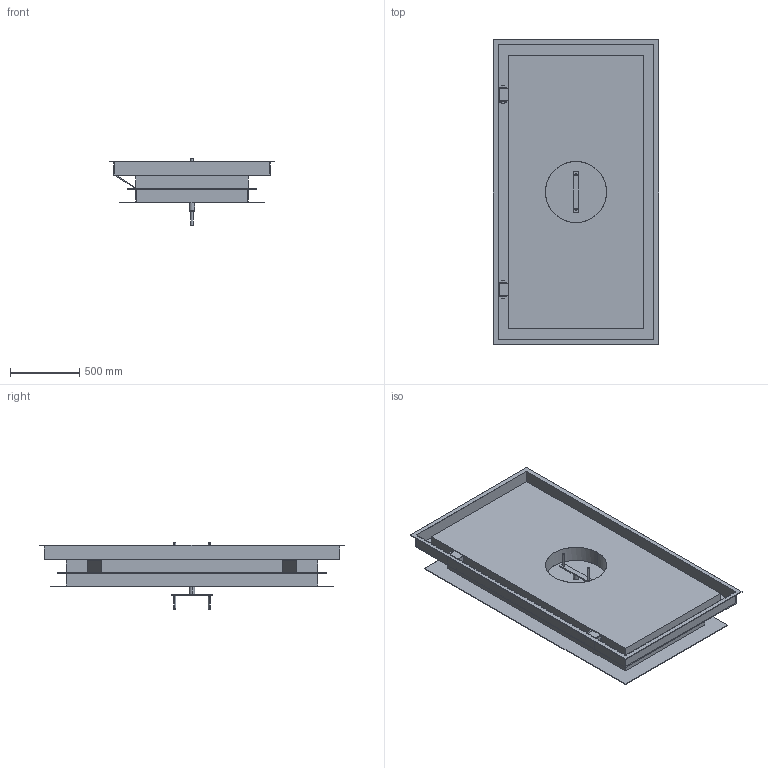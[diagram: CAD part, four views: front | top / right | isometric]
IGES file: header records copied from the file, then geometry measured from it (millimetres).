
Start section:  PTC IGES file: 52208645.igs
Global section: file name: 52208645.igs; native system: Creo Parametric by PTC Inc.; preprocessor: 2022162; author: ka; organization: Unknown; date: 20240215.130348; units: millimetre
Bounding box: 1190 x 2190 x 480 mm (x, y, z)
Surface area: 11617430.1 mm2 (no closed solid volume)
Topology: 0 solids, 0 shells, 134 faces, 652 edges, 652 vertices
Faces by surface type: bspline 112, revolution 22
